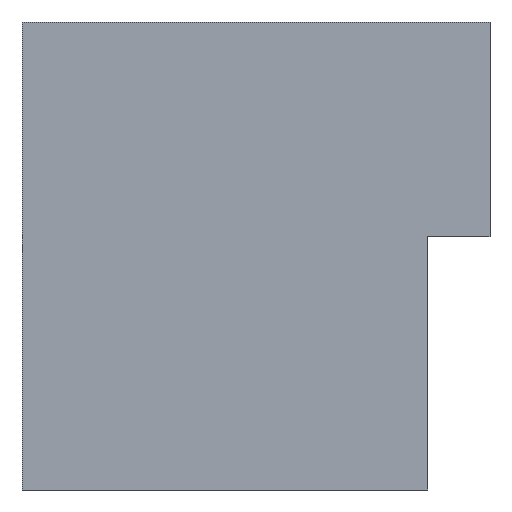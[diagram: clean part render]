
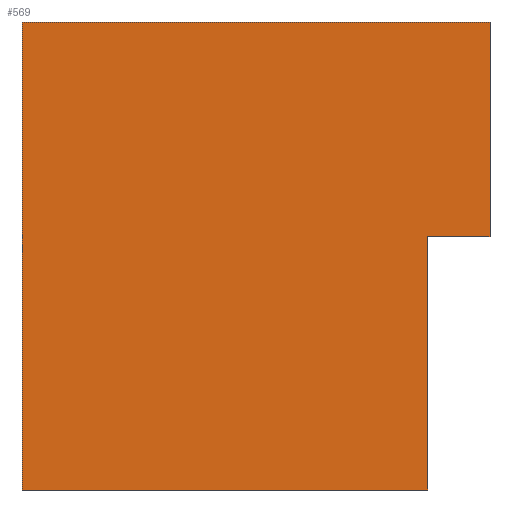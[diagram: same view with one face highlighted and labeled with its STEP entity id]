
A CAD part, left-side view. The second image highlights one B-rep face of the part: STEP entity #569.
In plain terms, the highlighted planar face has unit normal (-1, 0, 0).
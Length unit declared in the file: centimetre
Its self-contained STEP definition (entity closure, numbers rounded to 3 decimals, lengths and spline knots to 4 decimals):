
#11 = DIRECTION ( 'NONE',  ( 1., 0., 0. ) ) ;
#41 = CARTESIAN_POINT ( 'NONE',  ( 0., 0., 540.6931 ) ) ;
#49 = CARTESIAN_POINT ( 'NONE',  ( 0., 132.6214, 540.6931 ) ) ;
#60 = DIRECTION ( 'NONE',  ( 0., -1., 0. ) ) ;
#76 = CARTESIAN_POINT ( 'NONE',  ( 0., 1000., 1000. ) ) ;
#77 = AXIS2_PLACEMENT_3D ( 'NONE', #76, #11, #395 ) ;
#85 = VECTOR ( 'NONE', #60, 100. ) ;
#104 = ORIENTED_EDGE ( 'NONE', *, *, #173, .F. ) ;
#108 = DIRECTION ( 'NONE',  ( 0., 0., -1. ) ) ;
#120 = ORIENTED_EDGE ( 'NONE', *, *, #598, .T. ) ;
#127 = VECTOR ( 'NONE', #659, 100. ) ;
#140 = VERTEX_POINT ( 'NONE', #211 ) ;
#142 = CARTESIAN_POINT ( 'NONE',  ( 0., 0., 1000. ) ) ;
#145 = LINE ( 'NONE', #49, #209 ) ;
#162 = VERTEX_POINT ( 'NONE', #351 ) ;
#169 = CARTESIAN_POINT ( 'NONE',  ( 0., 1000., 1000. ) ) ;
#172 = PLANE ( 'NONE',  #77 ) ;
#173 = EDGE_CURVE ( 'NONE', #140, #220, #571, .T. ) ;
#175 = LINE ( 'NONE', #450, #127 ) ;
#178 = CARTESIAN_POINT ( 'NONE',  ( 0., 132.6214, 0. ) ) ;
#181 = FACE_OUTER_BOUND ( 'NONE', #519, .T. ) ;
#198 = VECTOR ( 'NONE', #239, 100. ) ;
#209 = VECTOR ( 'NONE', #262, 100. ) ;
#211 = CARTESIAN_POINT ( 'NONE',  ( 0., 0., 1000. ) ) ;
#220 = VERTEX_POINT ( 'NONE', #41 ) ;
#222 = CARTESIAN_POINT ( 'NONE',  ( 0., 1000., 1000. ) ) ;
#237 = EDGE_CURVE ( 'NONE', #220, #377, #145, .T. ) ;
#239 = DIRECTION ( 'NONE',  ( 0., 0., -1. ) ) ;
#262 = DIRECTION ( 'NONE',  ( 0., 1., 0. ) ) ;
#323 = LINE ( 'NONE', #364, #85 ) ;
#336 = EDGE_CURVE ( 'NONE', #609, #140, #175, .T. ) ;
#351 = CARTESIAN_POINT ( 'NONE',  ( 0., 1000., 0. ) ) ;
#353 = ORIENTED_EDGE ( 'NONE', *, *, #237, .F. ) ;
#364 = CARTESIAN_POINT ( 'NONE',  ( 0., 1000., 0. ) ) ;
#372 = CARTESIAN_POINT ( 'NONE',  ( 0., 132.6214, 540.6931 ) ) ;
#377 = VERTEX_POINT ( 'NONE', #563 ) ;
#395 = DIRECTION ( 'NONE',  ( 0., 0., -1. ) ) ;
#450 = CARTESIAN_POINT ( 'NONE',  ( 0., 1000., 1000. ) ) ;
#469 = DIRECTION ( 'NONE',  ( 0., 0., -1. ) ) ;
#484 = LINE ( 'NONE', #222, #198 ) ;
#500 = VECTOR ( 'NONE', #108, 100. ) ;
#508 = VECTOR ( 'NONE', #469, 100. ) ;
#516 = EDGE_CURVE ( 'NONE', #162, #671, #323, .T. ) ;
#519 = EDGE_LOOP ( 'NONE', ( #540, #621, #353, #104, #573, #120 ) ) ;
#540 = ORIENTED_EDGE ( 'NONE', *, *, #516, .T. ) ;
#547 = EDGE_CURVE ( 'NONE', #377, #671, #631, .T. ) ;
#563 = CARTESIAN_POINT ( 'NONE',  ( 0., 132.6214, 540.6931 ) ) ;
#569 = ADVANCED_FACE ( 'NONE', ( #181 ), #172, .F. ) ;
#571 = LINE ( 'NONE', #142, #508 ) ;
#573 = ORIENTED_EDGE ( 'NONE', *, *, #336, .F. ) ;
#598 = EDGE_CURVE ( 'NONE', #609, #162, #484, .T. ) ;
#609 = VERTEX_POINT ( 'NONE', #169 ) ;
#621 = ORIENTED_EDGE ( 'NONE', *, *, #547, .F. ) ;
#631 = LINE ( 'NONE', #372, #500 ) ;
#659 = DIRECTION ( 'NONE',  ( 0., -1., 0. ) ) ;
#671 = VERTEX_POINT ( 'NONE', #178 ) ;
